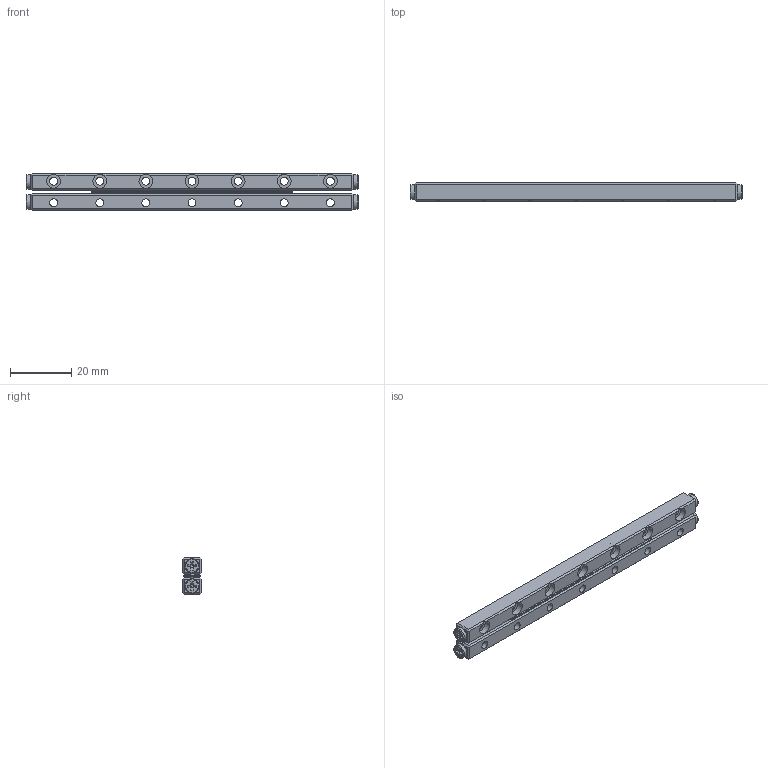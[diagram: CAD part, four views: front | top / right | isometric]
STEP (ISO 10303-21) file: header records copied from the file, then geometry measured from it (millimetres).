
FILE_DESCRIPTION (( 'STEP AP203' ), '1' );
FILE_NAME ('GRG02-0105-模糊化軌道組.STEP', '2022-10-05T07:25:29', ( '' ), ( '' ), 'SwSTEP 2.0', 'SolidWorks 2019', '' );
FILE_SCHEMA (( 'CONFIG_CONTROL_DESIGN' ));
Length unit declared in the file: millimetre
Products named in the file (1): GRG02-0105-模糊化軌道組
Bounding box: 108 x 6 x 12 mm (x, y, z)
Volume: 6133 mm3; surface area: 6747.4 mm2
Topology: 3 solids, 7 shells, 544 faces, 1286 edges, 812 vertices
Faces by surface type: plane 402, cylinder 66, cone 40, torus 36
Full cylindrical faces by diameter (mm): 2.1 x4, 2.6 x14, 4.5 x14, 4.7 x4
Entity records: 15289 total; most frequent: CARTESIAN_POINT 3253, ORIENTED_EDGE 2400, DIRECTION 2376, EDGE_CURVE 1200, LINE 822, VECTOR 822, VERTEX_POINT 778, AXIS2_PLACEMENT_3D 777
